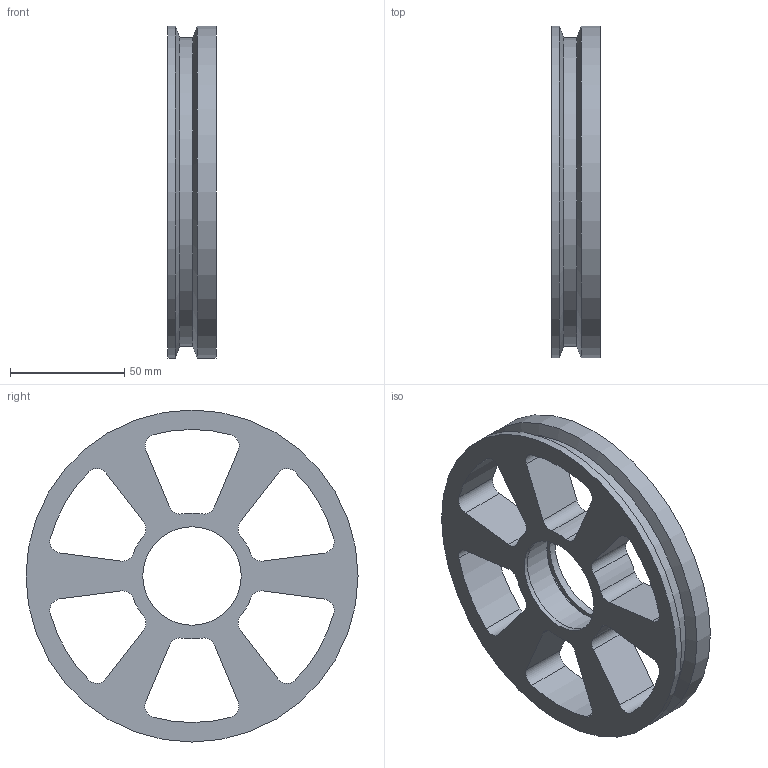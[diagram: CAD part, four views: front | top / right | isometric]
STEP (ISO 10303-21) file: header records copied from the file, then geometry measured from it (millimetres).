
FILE_DESCRIPTION(/* description */ (''),/* implementation_level */ '2;1');
FILE_NAME(/* name */ 'D:/pobrane/pwr/sem 6/konkurs kompozytywni/step/kolo.step',/* time_stamp */ '2021-05-10T22:29:50+02:00',/* author */ (''),/* organization */ (''),/* preprocessor_version */ 'ST-DEVELOPER v18.1',/* originating_system */ 'Autodesk Translation Framework v10.6.0.1341',/* authorisation */ '');
FILE_SCHEMA (('AUTOMOTIVE_DESIGN { 1 0 10303 214 3 1 1 }'));
Length unit declared in the file: millimetre
Products named in the file (1): kolo
Bounding box: 21 x 145 x 145 mm (x, y, z)
Volume: 153114.9 mm3; surface area: 48813.1 mm2
Topology: 1 solids, 1 shells, 62 faces, 169 edges, 112 vertices
Faces by surface type: cylinder 43, plane 17, cone 2
Full cylindrical faces by diameter (mm): 43 x1, 47 x2, 50.5 x1, 135 x1, 145 x2
Entity records: 2073 total; most frequent: DIRECTION 383, CARTESIAN_POINT 344, ORIENTED_EDGE 338, EDGE_CURVE 169, AXIS2_PLACEMENT_3D 151, VERTEX_POINT 112, CIRCLE 88, LINE 81
